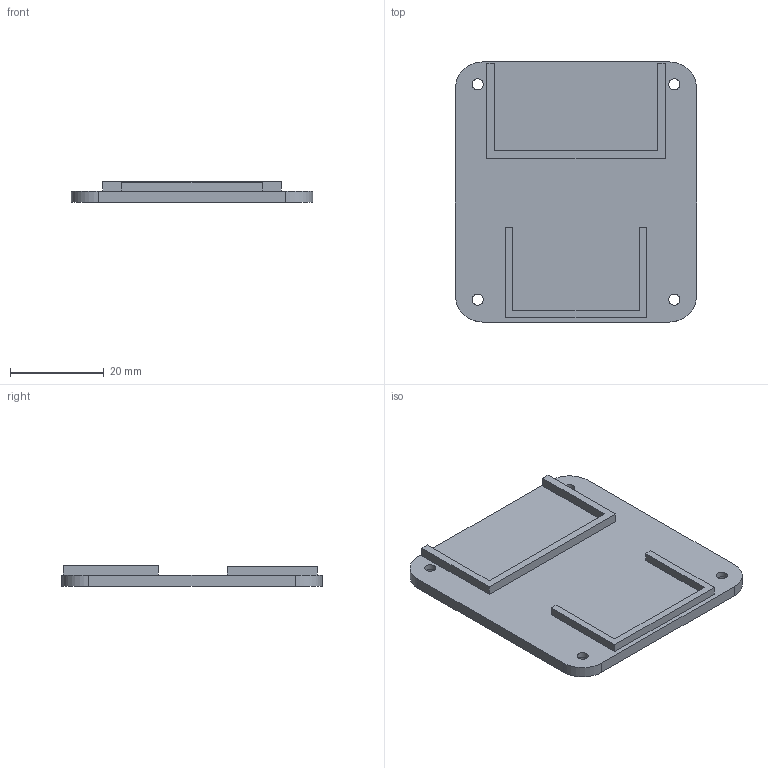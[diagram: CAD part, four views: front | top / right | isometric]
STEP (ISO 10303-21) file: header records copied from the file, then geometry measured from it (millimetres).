
FILE_DESCRIPTION(('Open CASCADE Model'),'2;1');
FILE_NAME('Open CASCADE Shape Model','2026-08-12T19:03:26',('Author'),( 'Open CASCADE'),'Open CASCADE STEP processor 7.9','Open CASCADE 7.9' ,'Unknown');
FILE_SCHEMA(('AUTOMOTIVE_DESIGN { 1 0 10303 214 1 1 1 1 }'));
Length unit declared in the file: millimetre
Products named in the file (1): Open CASCADE STEP translator 7.9 2
Bounding box: 51.55 x 55.55 x 4.4 mm (x, y, z)
Volume: 7011 mm3; surface area: 6822 mm2
Topology: 1 solids, 1 shells, 48 faces, 108 edges, 72 vertices
Faces by surface type: plane 32, cylinder 16
Full cylindrical faces by diameter (mm): 2.4 x4, 4.3 x4, 10.4 x4
Entity records: 2812 total; most frequent: CARTESIAN_POINT 551, DIRECTION 428, LINE 250, VECTOR 250, ORIENTED_EDGE 216, PCURVE 216, DEFINITIONAL_REPRESENTATION 216, EDGE_CURVE 108
